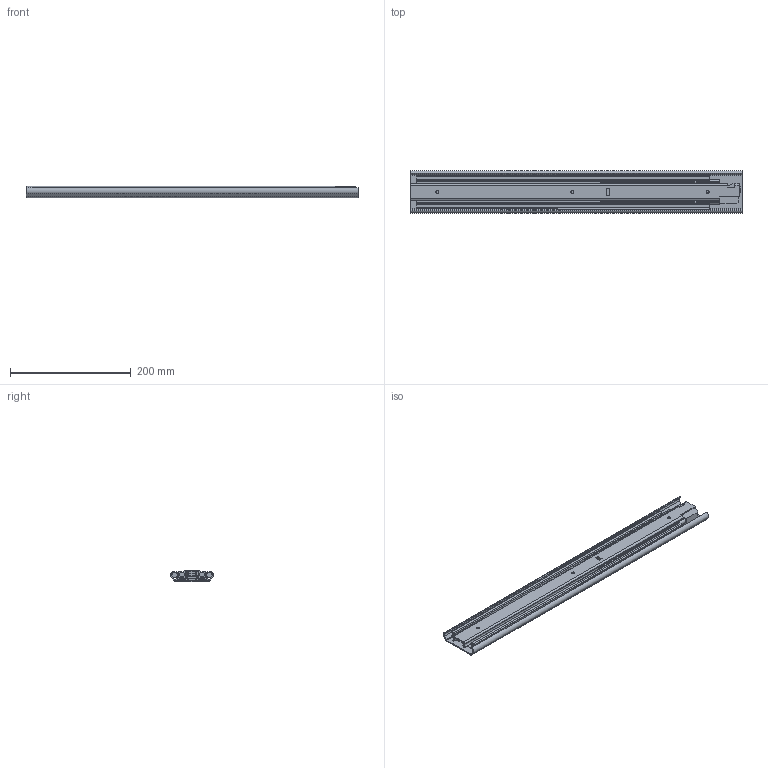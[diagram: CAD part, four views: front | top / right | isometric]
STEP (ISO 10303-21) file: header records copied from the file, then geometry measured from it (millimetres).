
FILE_DESCRIPTION( ( 'STEP AP203' ), '1' );
FILE_NAME( 'C:/Temp/Ganter_Step_05_03_2020/data/3_8/gn1432/Telescopic slide GN 1432-550-B-2-ZB (0).stp', '2020-03-12T15:26:37', ( 'License CC BY-ND 4.0' ), ( 'CADENAS' ), ' ', 'PARTsolutions', ' ' );
FILE_SCHEMA( ( 'CONFIG_CONTROL_DESIGN' ) );
Length unit declared in the file: millimetre
Products named in the file (4): Telescopic slide GN 1432-550-B-2-ZB (0); _Telescopic slide GN 1432-550-B-2-ZB (0)-1; _Telescopic slide GN 1432-550-B-2-ZB (0)-2; _Telescopic slide GN 1432-550-B-2-ZB (0)-3
Assembly tree (3 placements, depth 2):
  Telescopic slide GN 1432-550-B-2-ZB (0)
    _Telescopic slide GN 1432-550-B-2-ZB (0)-1
    _Telescopic slide GN 1432-550-B-2-ZB (0)-2
    _Telescopic slide GN 1432-550-B-2-ZB (0)-3
Bounding box: 550 x 70.88 x 18.4 mm (x, y, z)
Volume: 319608 mm3; surface area: 298834.5 mm2
Topology: 3 solids, 3 shells, 303 faces, 882 edges, 579 vertices
Faces by surface type: plane 179, cylinder 117, cone 7
Full cylindrical faces by diameter (mm): 5 x3, 6.5 x4, 11 x3
Entity records: 10108 total; most frequent: CARTESIAN_POINT 1765, ORIENTED_EDGE 1724, DIRECTION 1721, EDGE_CURVE 862, LINE 605, VECTOR 605, VERTEX_POINT 576, AXIS2_PLACEMENT_3D 558
